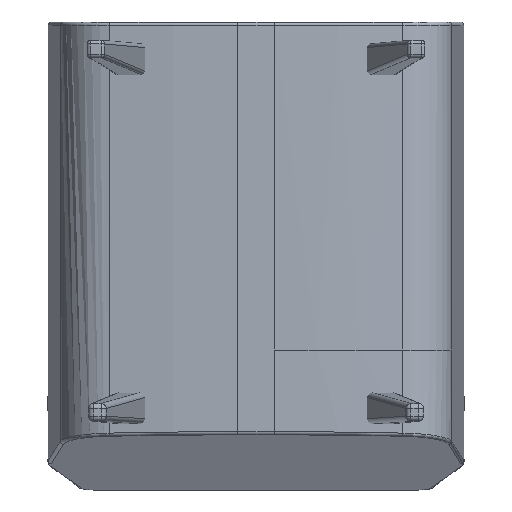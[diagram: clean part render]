
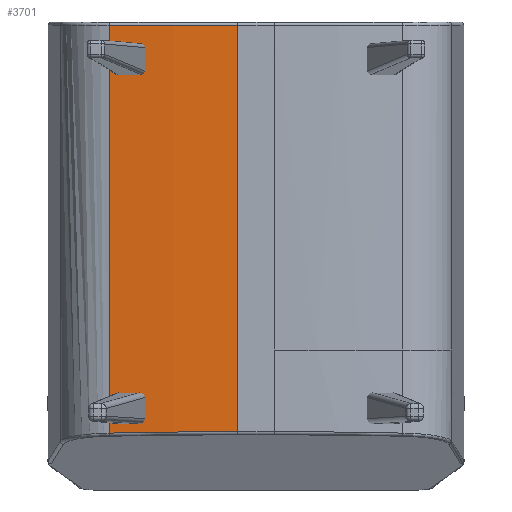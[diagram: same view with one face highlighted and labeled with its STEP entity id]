
A CAD part, front view. The second image highlights one B-rep face of the part: STEP entity #3701.
In plain terms, the highlighted free-form (B-spline) face has degree [3, 1] with [4, 2] control points.
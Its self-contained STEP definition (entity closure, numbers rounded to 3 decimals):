
#148 = EDGE_CURVE ( 'NONE', #2742, #3676, #4108, .T. ) ;
#195 = ORIENTED_EDGE ( 'NONE', *, *, #148, .T. ) ;
#223 = CARTESIAN_POINT ( 'NONE',  ( -235., 287.983, -0.995 ) ) ;
#242 = DIRECTION ( 'NONE',  ( 0., 0.017, 1. ) ) ;
#432 = ORIENTED_EDGE ( 'NONE', *, *, #5953, .F. ) ;
#737 = CARTESIAN_POINT ( 'NONE',  ( -166.707, 267.788, -661.776 ) ) ;
#766 = CARTESIAN_POINT ( 'NONE',  ( -29.164, 274.983, -0.995 ) ) ;
#803 = CARTESIAN_POINT ( 'NONE',  ( -29.164, 265.837, -524.92 ) ) ;
#855 = CARTESIAN_POINT ( 'NONE',  ( -29.164, 274.914, -4.913 ) ) ;
#985 = EDGE_LOOP ( 'NONE', ( #432, #3231, #4141, #195 ) ) ;
#1044 = LINE ( 'NONE', #803, #4302 ) ;
#1215 = CARTESIAN_POINT ( 'NONE',  ( -235., 276.517, -657.858 ) ) ;
#1302 = CARTESIAN_POINT ( 'NONE',  ( -200.856, 283.584, -4.913 ) ) ;
#1362 = CARTESIAN_POINT ( 'NONE',  ( -46.373, 274.914, -4.913 ) ) ;
#1402 = EDGE_CURVE ( 'NONE', #1419, #6723, #2192, .T. ) ;
#1419 = VERTEX_POINT ( 'NONE', #1215 ) ;
#1545 = CARTESIAN_POINT ( 'NONE',  ( -235., 278.837, -524.92 ) ) ;
#1721 = CARTESIAN_POINT ( 'NONE',  ( -63.584, 263.556, -655.633 ) ) ;
#1803 = CARTESIAN_POINT ( 'NONE',  ( -200.826, 272.469, -657.163 ) ) ;
#2192 = B_SPLINE_CURVE_WITH_KNOTS ( 'NONE', 3,
 ( #6486, #4918, #1803, #4351, #5366, #4828, #1721, #3350 ),
 .UNSPECIFIED., .F., .F.,
 ( 4, 2, 2, 4 ),
 ( 0., 0.052, 0.103, 0.207 ),
 .UNSPECIFIED. ) ;
#2352 = CARTESIAN_POINT ( 'NONE',  ( -166.627, 280.337, -4.913 ) ) ;
#2418 = CARTESIAN_POINT ( 'NONE',  ( -97.979, 276.272, -4.913 ) ) ;
#2742 = VERTEX_POINT ( 'NONE', #5987 ) ;
#2867 = CARTESIAN_POINT ( 'NONE',  ( -115.157, 277.085, -4.913 ) ) ;
#2948 = CARTESIAN_POINT ( 'NONE',  ( -29.164, 263.556, -655.633 ) ) ;
#3010 =( BOUNDED_SURFACE ( )  B_SPLINE_SURFACE ( 3, 1, ( 
 ( #3373, #223 ),
 ( #737, #4914 ),
 ( #3887, #3941 ),
 ( #4369, #766 ) ),
 .UNSPECIFIED., .F., .F., .F. ) 
 B_SPLINE_SURFACE_WITH_KNOTS ( ( 4, 4 ),
 ( 2, 2 ),
 ( 0., 1. ),
 ( 0., 1. ),
 .UNSPECIFIED. ) 
 GEOMETRIC_REPRESENTATION_ITEM ( )  RATIONAL_B_SPLINE_SURFACE ( (
 ( 1., 1.),
 ( 0.999, 0.999),
 ( 0.999, 0.999),
 ( 1., 1.) ) ) 
 REPRESENTATION_ITEM ( '' )  SURFACE ( )  );
#3231 = ORIENTED_EDGE ( 'NONE', *, *, #1402, .T. ) ;
#3350 = CARTESIAN_POINT ( 'NONE',  ( -29.164, 263.556, -655.633 ) ) ;
#3373 = CARTESIAN_POINT ( 'NONE',  ( -235., 276.449, -661.776 ) ) ;
#3559 = DIRECTION ( 'NONE',  ( 0., 0.017, 1. ) ) ;
#3574 = LINE ( 'NONE', #1545, #4942 ) ;
#3676 = VERTEX_POINT ( 'NONE', #5434 ) ;
#3701 = ADVANCED_FACE ( 'NONE', ( #4641 ), #3010, .T. ) ;
#3887 = CARTESIAN_POINT ( 'NONE',  ( -98.004, 263.449, -661.776 ) ) ;
#3941 = CARTESIAN_POINT ( 'NONE',  ( -98.004, 274.983, -0.995 ) ) ;
#4108 = B_SPLINE_CURVE_WITH_KNOTS ( 'NONE', 3,
 ( #855, #1362, #5551, #2418, #2867, #2352, #1302, #6077 ),
 .UNSPECIFIED., .F., .F.,
 ( 4, 2, 2, 4 ),
 ( 0., 0.052, 0.103, 0.207 ),
 .UNSPECIFIED. ) ;
#4141 = ORIENTED_EDGE ( 'NONE', *, *, #5743, .T. ) ;
#4302 = VECTOR ( 'NONE', #242, 1000. ) ;
#4351 = CARTESIAN_POINT ( 'NONE',  ( -166.565, 269.228, -656.607 ) ) ;
#4369 = CARTESIAN_POINT ( 'NONE',  ( -29.164, 263.449, -661.776 ) ) ;
#4641 = FACE_OUTER_BOUND ( 'NONE', #985, .T. ) ;
#4828 = CARTESIAN_POINT ( 'NONE',  ( -97.951, 264.638, -655.818 ) ) ;
#4914 = CARTESIAN_POINT ( 'NONE',  ( -166.707, 279.322, -0.995 ) ) ;
#4918 = CARTESIAN_POINT ( 'NONE',  ( -217.93, 274.359, -657.487 ) ) ;
#4942 = VECTOR ( 'NONE', #3559, 1000. ) ;
#5366 = CARTESIAN_POINT ( 'NONE',  ( -149.422, 267.878, -656.375 ) ) ;
#5434 = CARTESIAN_POINT ( 'NONE',  ( -235., 287.914, -4.913 ) ) ;
#5551 = CARTESIAN_POINT ( 'NONE',  ( -63.58, 275.186, -4.913 ) ) ;
#5743 = EDGE_CURVE ( 'NONE', #6723, #2742, #1044, .T. ) ;
#5953 = EDGE_CURVE ( 'NONE', #1419, #3676, #3574, .T. ) ;
#5987 = CARTESIAN_POINT ( 'NONE',  ( -29.164, 274.914, -4.913 ) ) ;
#6077 = CARTESIAN_POINT ( 'NONE',  ( -235., 287.914, -4.913 ) ) ;
#6486 = CARTESIAN_POINT ( 'NONE',  ( -235., 276.517, -657.858 ) ) ;
#6723 = VERTEX_POINT ( 'NONE', #2948 ) ;
